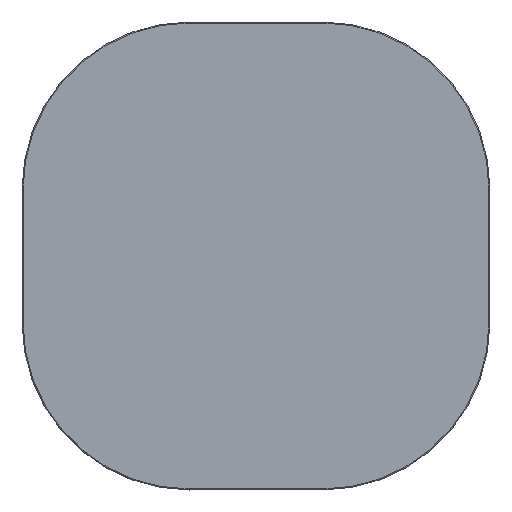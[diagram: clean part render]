
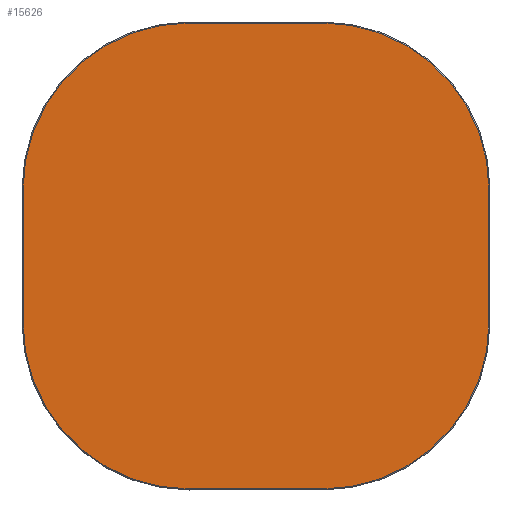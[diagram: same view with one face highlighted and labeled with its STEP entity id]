
A CAD part, top view. The second image highlights one B-rep face of the part: STEP entity #15626.
In plain terms, the highlighted planar face has unit normal (0, 0, 1).
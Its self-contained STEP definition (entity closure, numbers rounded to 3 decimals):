
#15551=CARTESIAN_POINT('',(0.,0.,20.));
#15552=DIRECTION('',(1.,0.,0.));
#15553=DIRECTION('',(0.,0.,1.));
#15554=AXIS2_PLACEMENT_3D('',#15551,#15553,#15552);
#15555=PLANE('',#15554);
#15556=CARTESIAN_POINT('',(-100.,-348.5,20.));
#15557=VERTEX_POINT('',#15556);
#15558=CARTESIAN_POINT('',(100.,-348.5,20.));
#15559=VERTEX_POINT('',#15558);
#15560=CARTESIAN_POINT('',(-100.,-348.5,20.));
#15561=DIRECTION('',(1.,0.,0.));
#15562=VECTOR('',#15561,200.);
#15563=LINE('',#15560,#15562);
#15564=EDGE_CURVE('',#15557,#15559,#15563,.T.);
#15565=ORIENTED_EDGE('E105',*,*,#15564,.T.);
#15566=CARTESIAN_POINT('',(348.5,-100.,20.));
#15567=VERTEX_POINT('',#15566);
#15568=CARTESIAN_POINT('',(100.,-100.,20.));
#15569=DIRECTION('',(0.,-1.,0.));
#15570=DIRECTION('',(0.,0.,1.));
#15571=AXIS2_PLACEMENT_3D('',#15568,#15570,#15569);
#15572=CIRCLE('',#15571,248.5);
#15573=EDGE_CURVE('',#15559,#15567,#15572,.T.);
#15574=ORIENTED_EDGE('E107',*,*,#15573,.T.);
#15575=CARTESIAN_POINT('',(348.5,100.,20.));
#15576=VERTEX_POINT('',#15575);
#15577=CARTESIAN_POINT('',(348.5,-100.,20.));
#15578=DIRECTION('',(0.,1.,0.));
#15579=VECTOR('',#15578,200.);
#15580=LINE('',#15577,#15579);
#15581=EDGE_CURVE('',#15567,#15576,#15580,.T.);
#15582=ORIENTED_EDGE('E109',*,*,#15581,.T.);
#15583=CARTESIAN_POINT('',(100.,348.5,20.));
#15584=VERTEX_POINT('',#15583);
#15585=CARTESIAN_POINT('',(100.,100.,20.));
#15586=DIRECTION('',(1.,0.,0.));
#15587=DIRECTION('',(0.,0.,1.));
#15588=AXIS2_PLACEMENT_3D('',#15585,#15587,#15586);
#15589=CIRCLE('',#15588,248.5);
#15590=EDGE_CURVE('',#15576,#15584,#15589,.T.);
#15591=ORIENTED_EDGE('E111',*,*,#15590,.T.);
#15592=CARTESIAN_POINT('',(-100.,348.5,20.));
#15593=VERTEX_POINT('',#15592);
#15594=CARTESIAN_POINT('',(100.,348.5,20.));
#15595=DIRECTION('',(-1.,0.,0.));
#15596=VECTOR('',#15595,200.);
#15597=LINE('',#15594,#15596);
#15598=EDGE_CURVE('',#15584,#15593,#15597,.T.);
#15599=ORIENTED_EDGE('E113',*,*,#15598,.T.);
#15600=CARTESIAN_POINT('',(-348.5,100.,20.));
#15601=VERTEX_POINT('',#15600);
#15602=CARTESIAN_POINT('',(-100.,100.,20.));
#15603=DIRECTION('',(0.,1.,0.));
#15604=DIRECTION('',(0.,0.,1.));
#15605=AXIS2_PLACEMENT_3D('',#15602,#15604,#15603);
#15606=CIRCLE('',#15605,248.5);
#15607=EDGE_CURVE('',#15593,#15601,#15606,.T.);
#15608=ORIENTED_EDGE('E115',*,*,#15607,.T.);
#15609=CARTESIAN_POINT('',(-348.5,-100.,20.));
#15610=VERTEX_POINT('',#15609);
#15611=CARTESIAN_POINT('',(-348.5,100.,20.));
#15612=DIRECTION('',(0.,-1.,0.));
#15613=VECTOR('',#15612,200.);
#15614=LINE('',#15611,#15613);
#15615=EDGE_CURVE('',#15601,#15610,#15614,.T.);
#15616=ORIENTED_EDGE('E117',*,*,#15615,.T.);
#15617=CARTESIAN_POINT('',(-100.,-100.,20.));
#15618=DIRECTION('',(-1.,0.,0.));
#15619=DIRECTION('',(0.,0.,1.));
#15620=AXIS2_PLACEMENT_3D('',#15617,#15619,#15618);
#15621=CIRCLE('',#15620,248.5);
#15622=EDGE_CURVE('',#15610,#15557,#15621,.T.);
#15623=ORIENTED_EDGE('E119',*,*,#15622,.T.);
#15624=EDGE_LOOP('',(#15565,#15574,#15582,#15591,#15599,#15608,#15616,#15623));
#15625=FACE_OUTER_BOUND('',#15624,.T.);
#15626=ADVANCED_FACE('F2',(#15625),#15555,.T.);
